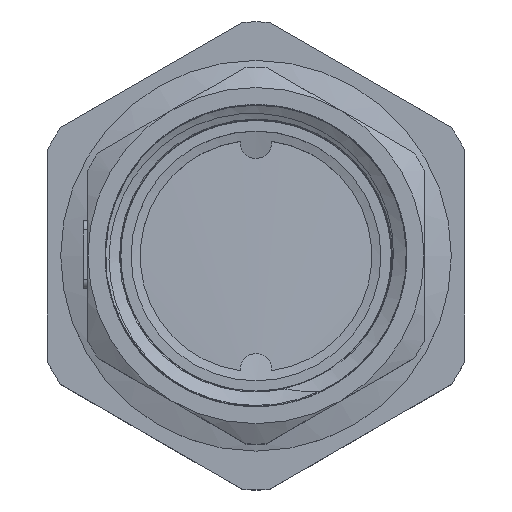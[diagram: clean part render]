
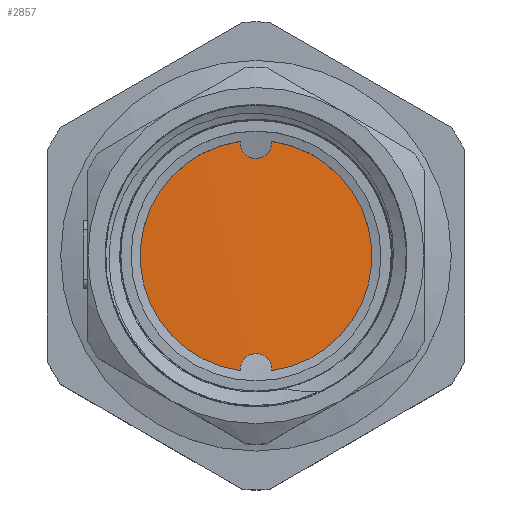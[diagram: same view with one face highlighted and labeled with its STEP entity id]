
A CAD part, top view. The second image highlights one B-rep face of the part: STEP entity #2857.
In plain terms, the highlighted cylindrical face has radius 16.5 mm (diameter 33 mm), a full revolution.
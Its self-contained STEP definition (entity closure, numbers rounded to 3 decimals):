
#138=B_SPLINE_CURVE_WITH_KNOTS('',3,(#4218,#4219,#4220,#4221,#4222,#4223,
#4224,#4225,#4226,#4227,#4228,#4229,#4230,#4231,#4232,#4233,#4234,#4235,
#4236,#4237,#4238,#4239,#4240,#4241,#4242,#4243,#4244,#4245,#4246,#4247,
#4248,#4249,#4250,#4251,#4252,#4253,#4254,#4255,#4256,#4257,#4258,#4259,
#4260),.UNSPECIFIED.,.F.,.F.,(4,3,3,3,3,3,3,3,3,3,3,3,3,3,4),(-37.699,
-37.57,-37.072,-36.574,-36.076,
-35.578,-35.08,-34.582,-34.085,
-33.587,-33.089,-32.591,-32.093,
-31.595,-31.416),.UNSPECIFIED.);
#373=FACE_OUTER_BOUND('',#545,.T.);
#545=EDGE_LOOP('',(#1984,#1985,#1986));
#720=LINE('',#4215,#866);
#721=LINE('',#4217,#867);
#866=VECTOR('',#3462,16.5);
#867=VECTOR('',#3463,16.5);
#1158=VERTEX_POINT('',#4213);
#1159=VERTEX_POINT('',#4214);
#1160=VERTEX_POINT('',#4216);
#1478=EDGE_CURVE('',#1158,#1159,#720,.T.);
#1479=EDGE_CURVE('',#1158,#1160,#721,.T.);
#1480=EDGE_CURVE('',#1160,#1159,#138,.T.);
#1984=ORIENTED_EDGE('',*,*,#1478,.F.);
#1985=ORIENTED_EDGE('',*,*,#1479,.T.);
#1986=ORIENTED_EDGE('',*,*,#1480,.T.);
#2787=CYLINDRICAL_SURFACE('',#3131,16.5);
#2857=ADVANCED_FACE('',(#373),#2787,.T.);
#3131=AXIS2_PLACEMENT_3D('',#4212,#3460,#3461);
#3460=DIRECTION('center_axis',(0.,0.,-1.));
#3461=DIRECTION('ref_axis',(0.,1.,0.));
#3462=DIRECTION('',(0.,0.,-1.));
#3463=DIRECTION('',(0.,0.,1.));
#4212=CARTESIAN_POINT('Origin',(0.,0.,7.5));
#4213=CARTESIAN_POINT('',(0.,-16.5,11.548));
#4214=CARTESIAN_POINT('',(0.,-16.5,9.256));
#4215=CARTESIAN_POINT('',(0.,-16.5,7.5));
#4216=CARTESIAN_POINT('',(0.,-16.5,11.568));
#4217=CARTESIAN_POINT('',(0.,-16.5,7.5));
#4218=CARTESIAN_POINT('Ctrl Pts',(0.,-16.5,
11.568));
#4219=CARTESIAN_POINT('Ctrl Pts',(-0.712,-16.5,
11.552));
#4220=CARTESIAN_POINT('Ctrl Pts',(-1.424,-16.455,11.536));
#4221=CARTESIAN_POINT('Ctrl Pts',(-2.13,-16.363,11.52));
#4222=CARTESIAN_POINT('Ctrl Pts',(-4.845,-16.01,11.459));
#4223=CARTESIAN_POINT('Ctrl Pts',(-7.47,-14.966,11.398));
#4224=CARTESIAN_POINT('Ctrl Pts',(-9.686,-13.359,11.337));
#4225=CARTESIAN_POINT('Ctrl Pts',(-11.902,-11.753,11.276));
#4226=CARTESIAN_POINT('Ctrl Pts',(-13.71,-9.582,11.215));
#4227=CARTESIAN_POINT('Ctrl Pts',(-14.89,-7.112,11.154));
#4228=CARTESIAN_POINT('Ctrl Pts',(-16.07,-4.642,11.093));
#4229=CARTESIAN_POINT('Ctrl Pts',(-16.622,-1.872,11.032));
#4230=CARTESIAN_POINT('Ctrl Pts',(-16.479,0.862,10.971));
#4231=CARTESIAN_POINT('Ctrl Pts',(-16.336,3.596,10.91));
#4232=CARTESIAN_POINT('Ctrl Pts',(-15.498,6.293,10.849));
#4233=CARTESIAN_POINT('Ctrl Pts',(-14.067,8.627,10.788));
#4234=CARTESIAN_POINT('Ctrl Pts',(-12.635,10.961,10.726));
#4235=CARTESIAN_POINT('Ctrl Pts',(-10.611,12.93,10.665));
#4236=CARTESIAN_POINT('Ctrl Pts',(-8.239,14.297,10.604));
#4237=CARTESIAN_POINT('Ctrl Pts',(-5.867,15.664,10.543));
#4238=CARTESIAN_POINT('Ctrl Pts',(-3.148,16.428,10.482));
#4239=CARTESIAN_POINT('Ctrl Pts',(-0.411,16.496,10.421));
#4240=CARTESIAN_POINT('Ctrl Pts',(2.325,16.565,10.36));
#4241=CARTESIAN_POINT('Ctrl Pts',(5.079,15.937,10.299));
#4242=CARTESIAN_POINT('Ctrl Pts',(7.517,14.69,10.238));
#4243=CARTESIAN_POINT('Ctrl Pts',(9.954,13.443,10.177));
#4244=CARTESIAN_POINT('Ctrl Pts',(12.074,11.577,10.116));
#4245=CARTESIAN_POINT('Ctrl Pts',(13.619,9.317,10.055));
#4246=CARTESIAN_POINT('Ctrl Pts',(15.165,7.058,9.994));
#4247=CARTESIAN_POINT('Ctrl Pts',(16.136,4.405,9.933));
#4248=CARTESIAN_POINT('Ctrl Pts',(16.415,1.682,9.872));
#4249=CARTESIAN_POINT('Ctrl Pts',(16.695,-1.041,9.811));
#4250=CARTESIAN_POINT('Ctrl Pts',(16.281,-3.835,9.75));
#4251=CARTESIAN_POINT('Ctrl Pts',(15.226,-6.361,9.689));
#4252=CARTESIAN_POINT('Ctrl Pts',(14.171,-8.887,9.628));
#4253=CARTESIAN_POINT('Ctrl Pts',(12.473,-11.145,9.567));
#4254=CARTESIAN_POINT('Ctrl Pts',(10.34,-12.86,9.505));
#4255=CARTESIAN_POINT('Ctrl Pts',(8.206,-14.576,9.444));
#4256=CARTESIAN_POINT('Ctrl Pts',(5.637,-15.749,9.383));
#4257=CARTESIAN_POINT('Ctrl Pts',(2.943,-16.237,9.322));
#4258=CARTESIAN_POINT('Ctrl Pts',(1.973,-16.413,9.3));
#4259=CARTESIAN_POINT('Ctrl Pts',(0.987,-16.5,9.278));
#4260=CARTESIAN_POINT('Ctrl Pts',(0.,-16.499,
9.256));
